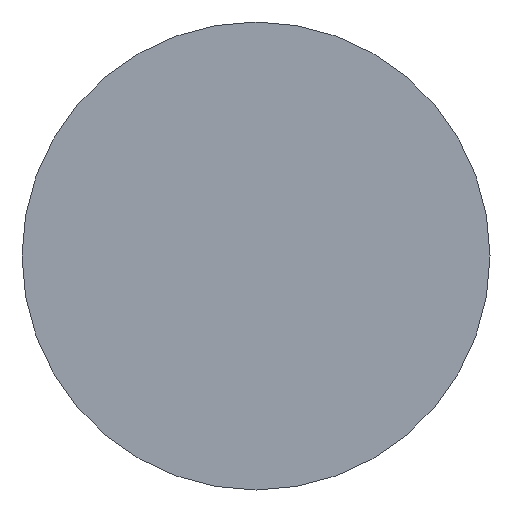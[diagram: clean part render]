
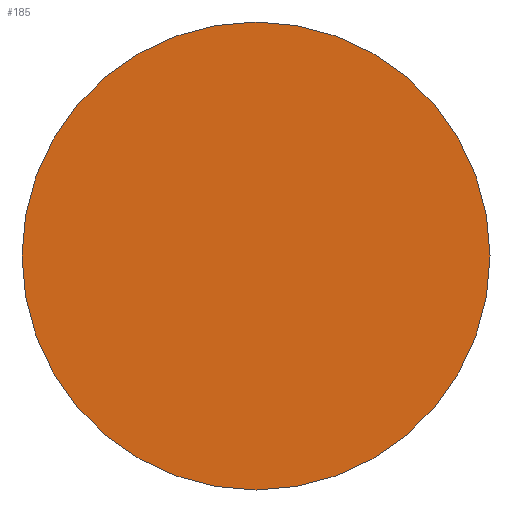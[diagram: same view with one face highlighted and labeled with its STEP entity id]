
A CAD part, front view. The second image highlights one B-rep face of the part: STEP entity #185.
In plain terms, the highlighted planar face has unit normal (0, -1, 0).
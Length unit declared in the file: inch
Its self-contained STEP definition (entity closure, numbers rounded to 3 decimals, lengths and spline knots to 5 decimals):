
#19 = CARTESIAN_POINT ( 'NONE',  ( 0., 0., 0. ) ) ;
#23 = DIRECTION ( 'NONE',  ( 0., 1., 0. ) ) ;
#40 = CARTESIAN_POINT ( 'NONE',  ( 0., 0., -1.75 ) ) ;
#67 = VERTEX_POINT ( 'NONE', #40 ) ;
#79 = DIRECTION ( 'NONE',  ( 0., 0., 1. ) ) ;
#81 = CARTESIAN_POINT ( 'NONE',  ( 0., 0., 0. ) ) ;
#112 = EDGE_LOOP ( 'NONE', ( #209, #320 ) ) ;
#119 = DIRECTION ( 'NONE',  ( 0., 1., 0. ) ) ;
#135 = AXIS2_PLACEMENT_3D ( 'NONE', #19, #119, #193 ) ;
#142 = CIRCLE ( 'NONE', #240, 1.75 ) ;
#177 = CARTESIAN_POINT ( 'NONE',  ( 0., 0., 0. ) ) ;
#185 = ADVANCED_FACE ( 'NONE', ( #250 ), #199, .F. ) ;
#190 = EDGE_CURVE ( 'NONE', #211, #67, #142, .T. ) ;
#191 = AXIS2_PLACEMENT_3D ( 'NONE', #81, #23, #328 ) ;
#193 = DIRECTION ( 'NONE',  ( 0., 0., 1. ) ) ;
#199 = PLANE ( 'NONE',  #191 ) ;
#209 = ORIENTED_EDGE ( 'NONE', *, *, #239, .F. ) ;
#211 = VERTEX_POINT ( 'NONE', #268 ) ;
#218 = DIRECTION ( 'NONE',  ( 0., 1., 0. ) ) ;
#239 = EDGE_CURVE ( 'NONE', #67, #211, #270, .T. ) ;
#240 = AXIS2_PLACEMENT_3D ( 'NONE', #177, #218, #79 ) ;
#250 = FACE_OUTER_BOUND ( 'NONE', #112, .T. ) ;
#268 = CARTESIAN_POINT ( 'NONE',  ( 0., 0., 1.75 ) ) ;
#270 = CIRCLE ( 'NONE', #135, 1.75 ) ;
#320 = ORIENTED_EDGE ( 'NONE', *, *, #190, .F. ) ;
#328 = DIRECTION ( 'NONE',  ( 0., 0., 1. ) ) ;
